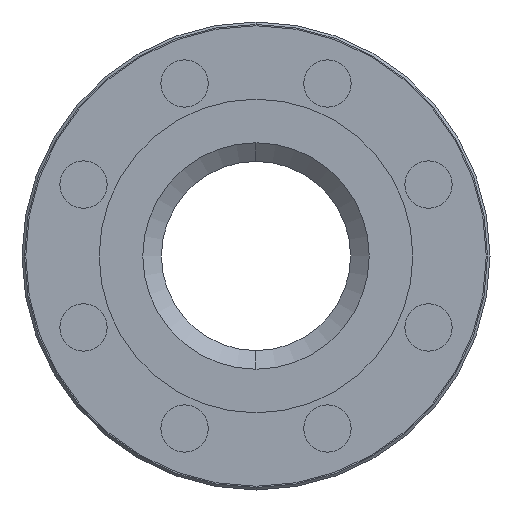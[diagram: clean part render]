
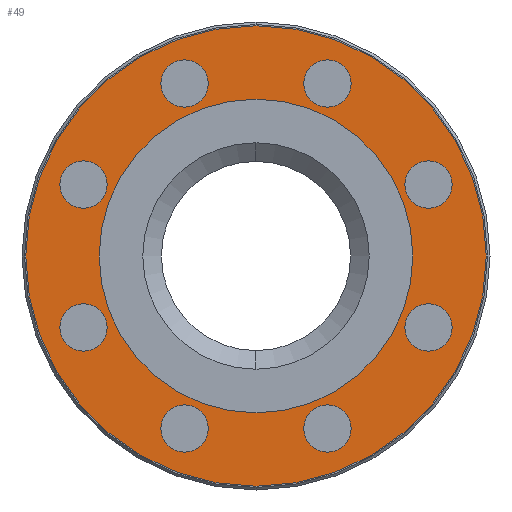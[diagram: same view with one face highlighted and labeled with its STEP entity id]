
A CAD part, left-side view. The second image highlights one B-rep face of the part: STEP entity #49.
In plain terms, the highlighted planar face has unit normal (-1, 0, 0).
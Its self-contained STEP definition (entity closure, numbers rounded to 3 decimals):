
#49=ADVANCED_FACE('',(#271,#272,#273,#274,#275,#276,#277,#278,#279,#280),#270,.T.);
#270=PLANE('',#1536);
#271=FACE_OUTER_BOUND('',#1537,.T.);
#272=FACE_BOUND('',#1538,.T.);
#273=FACE_BOUND('',#1539,.T.);
#274=FACE_BOUND('',#1540,.T.);
#275=FACE_BOUND('',#1541,.T.);
#276=FACE_BOUND('',#1542,.T.);
#277=FACE_BOUND('',#1543,.T.);
#278=FACE_BOUND('',#1544,.T.);
#279=FACE_BOUND('',#1545,.T.);
#280=FACE_BOUND('',#1546,.T.);
#1533=CARTESIAN_POINT('',(2.,-170.215,-195.));
#1534=DIRECTION('',(-1.,0.,0.));
#1535=DIRECTION('',(0.,0.,1.));
#1536=AXIS2_PLACEMENT_3D('',#1533,#1534,#1535);
#1537=EDGE_LOOP('',(#2660,#2661));
#1538=EDGE_LOOP('',(#2662,#2663));
#1539=EDGE_LOOP('',(#2664,#2665));
#1540=EDGE_LOOP('',(#2666,#2667));
#1541=EDGE_LOOP('',(#2668,#2669));
#1542=EDGE_LOOP('',(#2670,#2671));
#1543=EDGE_LOOP('',(#2672,#2673));
#1544=EDGE_LOOP('',(#2674,#2675));
#1545=EDGE_LOOP('',(#2676,#2677));
#1546=EDGE_LOOP('',(#2678,#2679));
#2660=ORIENTED_EDGE('',*,*,#3254,.T.);
#2661=ORIENTED_EDGE('',*,*,#3255,.T.);
#2662=ORIENTED_EDGE('',*,*,#3256,.F.);
#2663=ORIENTED_EDGE('',*,*,#3257,.F.);
#2664=ORIENTED_EDGE('',*,*,#3258,.F.);
#2665=ORIENTED_EDGE('',*,*,#3259,.F.);
#2666=ORIENTED_EDGE('',*,*,#3260,.F.);
#2667=ORIENTED_EDGE('',*,*,#3261,.F.);
#2668=ORIENTED_EDGE('',*,*,#3262,.F.);
#2669=ORIENTED_EDGE('',*,*,#3263,.F.);
#2670=ORIENTED_EDGE('',*,*,#3264,.F.);
#2671=ORIENTED_EDGE('',*,*,#3265,.F.);
#2672=ORIENTED_EDGE('',*,*,#3266,.F.);
#2673=ORIENTED_EDGE('',*,*,#3267,.F.);
#2674=ORIENTED_EDGE('',*,*,#3268,.F.);
#2675=ORIENTED_EDGE('',*,*,#3269,.F.);
#2676=ORIENTED_EDGE('',*,*,#3270,.F.);
#2677=ORIENTED_EDGE('',*,*,#3271,.F.);
#2678=ORIENTED_EDGE('',*,*,#3272,.F.);
#2679=ORIENTED_EDGE('',*,*,#3273,.F.);
#3254=EDGE_CURVE('',#3850,#3851,#3852,.T.);
#3255=EDGE_CURVE('',#3851,#3850,#3858,.T.);
#3256=EDGE_CURVE('',#3864,#3865,#3866,.T.);
#3257=EDGE_CURVE('',#3865,#3864,#3872,.T.);
#3258=EDGE_CURVE('',#3878,#3879,#3880,.T.);
#3259=EDGE_CURVE('',#3879,#3878,#3886,.T.);
#3260=EDGE_CURVE('',#3892,#3893,#3894,.T.);
#3261=EDGE_CURVE('',#3893,#3892,#3900,.T.);
#3262=EDGE_CURVE('',#3906,#3907,#3908,.T.);
#3263=EDGE_CURVE('',#3907,#3906,#3914,.T.);
#3264=EDGE_CURVE('',#3920,#3921,#3922,.T.);
#3265=EDGE_CURVE('',#3921,#3920,#3928,.T.);
#3266=EDGE_CURVE('',#3934,#3935,#3936,.T.);
#3267=EDGE_CURVE('',#3935,#3934,#3942,.T.);
#3268=EDGE_CURVE('',#3948,#3949,#3950,.T.);
#3269=EDGE_CURVE('',#3949,#3948,#3956,.T.);
#3270=EDGE_CURVE('',#3962,#3963,#3964,.T.);
#3271=EDGE_CURVE('',#3963,#3962,#3970,.T.);
#3272=EDGE_CURVE('',#3976,#3977,#3978,.T.);
#3273=EDGE_CURVE('',#3977,#3976,#3984,.T.);
#3850=VERTEX_POINT('',#5717);
#3851=VERTEX_POINT('',#5718);
#3852=CIRCLE('',#5722,92.5);
#3858=CIRCLE('',#5726,92.5);
#3864=VERTEX_POINT('',#5727);
#3865=VERTEX_POINT('',#5728);
#3866=CIRCLE('',#5732,9.5);
#3872=CIRCLE('',#5736,9.5);
#3878=VERTEX_POINT('',#5737);
#3879=VERTEX_POINT('',#5738);
#3880=CIRCLE('',#5742,9.5);
#3886=CIRCLE('',#5746,9.5);
#3892=VERTEX_POINT('',#5747);
#3893=VERTEX_POINT('',#5748);
#3894=CIRCLE('',#5752,9.5);
#3900=CIRCLE('',#5756,9.5);
#3906=VERTEX_POINT('',#5757);
#3907=VERTEX_POINT('',#5758);
#3908=CIRCLE('',#5762,9.5);
#3914=CIRCLE('',#5766,9.5);
#3920=VERTEX_POINT('',#5767);
#3921=VERTEX_POINT('',#5768);
#3922=CIRCLE('',#5772,9.5);
#3928=CIRCLE('',#5776,9.5);
#3934=VERTEX_POINT('',#5777);
#3935=VERTEX_POINT('',#5778);
#3936=CIRCLE('',#5782,9.5);
#3942=CIRCLE('',#5786,9.5);
#3948=VERTEX_POINT('',#5787);
#3949=VERTEX_POINT('',#5788);
#3950=CIRCLE('',#5792,9.5);
#3956=CIRCLE('',#5796,9.5);
#3962=VERTEX_POINT('',#5797);
#3963=VERTEX_POINT('',#5798);
#3964=CIRCLE('',#5802,9.5);
#3970=CIRCLE('',#5806,9.5);
#3976=VERTEX_POINT('',#5807);
#3977=VERTEX_POINT('',#5808);
#3978=CIRCLE('',#5812,63.);
#3984=CIRCLE('',#5816,63.);
#5717=CARTESIAN_POINT('',(2.,0.,92.5));
#5718=CARTESIAN_POINT('',(2.,0.,-92.5));
#5719=CARTESIAN_POINT('',(2.,0.,0.));
#5720=DIRECTION('',(-1.,0.,0.));
#5721=DIRECTION('',(0.,0.,1.));
#5722=AXIS2_PLACEMENT_3D('',#5719,#5720,#5721);
#5723=CARTESIAN_POINT('',(2.,0.,0.));
#5724=DIRECTION('',(-1.,0.,0.));
#5725=DIRECTION('',(0.,0.,1.));
#5726=AXIS2_PLACEMENT_3D('',#5723,#5724,#5725);
#5727=CARTESIAN_POINT('',(2.,-69.291,38.201));
#5728=CARTESIAN_POINT('',(2.,-69.291,19.201));
#5729=CARTESIAN_POINT('',(2.,-69.291,28.701));
#5730=DIRECTION('',(-1.,0.,0.));
#5731=DIRECTION('',(0.,0.,-1.));
#5732=AXIS2_PLACEMENT_3D('',#5729,#5730,#5731);
#5733=CARTESIAN_POINT('',(2.,-69.291,28.701));
#5734=DIRECTION('',(-1.,0.,0.));
#5735=DIRECTION('',(0.,0.,-1.));
#5736=AXIS2_PLACEMENT_3D('',#5733,#5734,#5735);
#5737=CARTESIAN_POINT('',(2.,-69.291,-19.201));
#5738=CARTESIAN_POINT('',(2.,-69.291,-38.201));
#5739=CARTESIAN_POINT('',(2.,-69.291,-28.701));
#5740=DIRECTION('',(-1.,0.,0.));
#5741=DIRECTION('',(0.,0.,-1.));
#5742=AXIS2_PLACEMENT_3D('',#5739,#5740,#5741);
#5743=CARTESIAN_POINT('',(2.,-69.291,-28.701));
#5744=DIRECTION('',(-1.,0.,0.));
#5745=DIRECTION('',(0.,0.,-1.));
#5746=AXIS2_PLACEMENT_3D('',#5743,#5744,#5745);
#5747=CARTESIAN_POINT('',(2.,-28.701,-59.791));
#5748=CARTESIAN_POINT('',(2.,-28.701,-78.791));
#5749=CARTESIAN_POINT('',(2.,-28.701,-69.291));
#5750=DIRECTION('',(-1.,0.,0.));
#5751=DIRECTION('',(0.,0.,-1.));
#5752=AXIS2_PLACEMENT_3D('',#5749,#5750,#5751);
#5753=CARTESIAN_POINT('',(2.,-28.701,-69.291));
#5754=DIRECTION('',(-1.,0.,0.));
#5755=DIRECTION('',(0.,0.,-1.));
#5756=AXIS2_PLACEMENT_3D('',#5753,#5754,#5755);
#5757=CARTESIAN_POINT('',(2.,28.701,-59.791));
#5758=CARTESIAN_POINT('',(2.,28.701,-78.791));
#5759=CARTESIAN_POINT('',(2.,28.701,-69.291));
#5760=DIRECTION('',(-1.,0.,0.));
#5761=DIRECTION('',(0.,0.,-1.));
#5762=AXIS2_PLACEMENT_3D('',#5759,#5760,#5761);
#5763=CARTESIAN_POINT('',(2.,28.701,-69.291));
#5764=DIRECTION('',(-1.,0.,0.));
#5765=DIRECTION('',(0.,0.,-1.));
#5766=AXIS2_PLACEMENT_3D('',#5763,#5764,#5765);
#5767=CARTESIAN_POINT('',(2.,69.291,-19.201));
#5768=CARTESIAN_POINT('',(2.,69.291,-38.201));
#5769=CARTESIAN_POINT('',(2.,69.291,-28.701));
#5770=DIRECTION('',(-1.,0.,0.));
#5771=DIRECTION('',(0.,0.,-1.));
#5772=AXIS2_PLACEMENT_3D('',#5769,#5770,#5771);
#5773=CARTESIAN_POINT('',(2.,69.291,-28.701));
#5774=DIRECTION('',(-1.,0.,0.));
#5775=DIRECTION('',(0.,0.,-1.));
#5776=AXIS2_PLACEMENT_3D('',#5773,#5774,#5775);
#5777=CARTESIAN_POINT('',(2.,69.291,38.201));
#5778=CARTESIAN_POINT('',(2.,69.291,19.201));
#5779=CARTESIAN_POINT('',(2.,69.291,28.701));
#5780=DIRECTION('',(-1.,0.,0.));
#5781=DIRECTION('',(0.,0.,-1.));
#5782=AXIS2_PLACEMENT_3D('',#5779,#5780,#5781);
#5783=CARTESIAN_POINT('',(2.,69.291,28.701));
#5784=DIRECTION('',(-1.,0.,0.));
#5785=DIRECTION('',(0.,0.,-1.));
#5786=AXIS2_PLACEMENT_3D('',#5783,#5784,#5785);
#5787=CARTESIAN_POINT('',(2.,28.701,78.791));
#5788=CARTESIAN_POINT('',(2.,28.701,59.791));
#5789=CARTESIAN_POINT('',(2.,28.701,69.291));
#5790=DIRECTION('',(-1.,0.,0.));
#5791=DIRECTION('',(0.,0.,-1.));
#5792=AXIS2_PLACEMENT_3D('',#5789,#5790,#5791);
#5793=CARTESIAN_POINT('',(2.,28.701,69.291));
#5794=DIRECTION('',(-1.,0.,0.));
#5795=DIRECTION('',(0.,0.,-1.));
#5796=AXIS2_PLACEMENT_3D('',#5793,#5794,#5795);
#5797=CARTESIAN_POINT('',(2.,-28.701,78.791));
#5798=CARTESIAN_POINT('',(2.,-28.701,59.791));
#5799=CARTESIAN_POINT('',(2.,-28.701,69.291));
#5800=DIRECTION('',(-1.,0.,0.));
#5801=DIRECTION('',(0.,0.,-1.));
#5802=AXIS2_PLACEMENT_3D('',#5799,#5800,#5801);
#5803=CARTESIAN_POINT('',(2.,-28.701,69.291));
#5804=DIRECTION('',(-1.,0.,0.));
#5805=DIRECTION('',(0.,0.,-1.));
#5806=AXIS2_PLACEMENT_3D('',#5803,#5804,#5805);
#5807=CARTESIAN_POINT('',(2.,0.,-63.));
#5808=CARTESIAN_POINT('',(2.,0.,63.));
#5809=CARTESIAN_POINT('',(2.,0.,0.));
#5810=DIRECTION('',(-1.,0.,0.));
#5811=DIRECTION('',(0.,0.,1.));
#5812=AXIS2_PLACEMENT_3D('',#5809,#5810,#5811);
#5813=CARTESIAN_POINT('',(2.,0.,0.));
#5814=DIRECTION('',(-1.,0.,0.));
#5815=DIRECTION('',(0.,0.,1.));
#5816=AXIS2_PLACEMENT_3D('',#5813,#5814,#5815);
